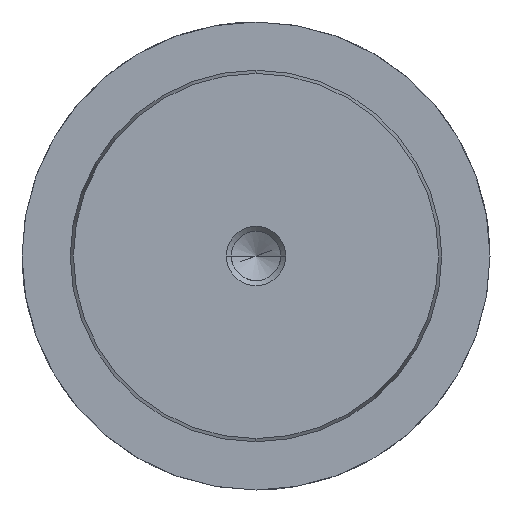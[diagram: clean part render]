
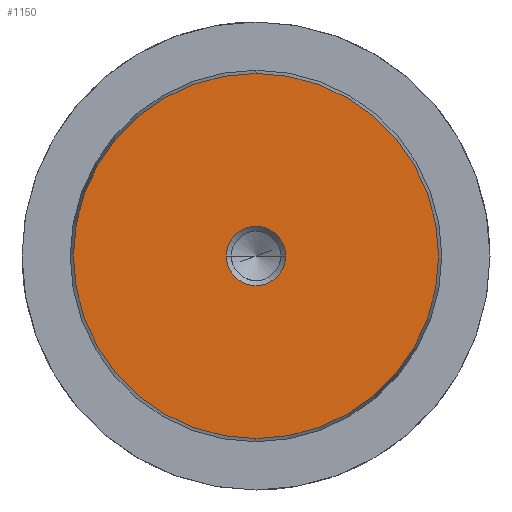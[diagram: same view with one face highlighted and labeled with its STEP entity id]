
A CAD part, left-side view. The second image highlights one B-rep face of the part: STEP entity #1150.
In plain terms, the highlighted planar face has unit normal (-1, 0, 0).
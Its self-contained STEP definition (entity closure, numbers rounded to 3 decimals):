
#1064=CARTESIAN_POINT('Vertex',(0.,0.,-24.578)) ;
#1067=CARTESIAN_POINT('Axis2P3D Location',(0.,0.,0.)) ;
#1071=CARTESIAN_POINT('Vertex',(0.,24.578,0.)) ;
#1074=CARTESIAN_POINT('Axis2P3D Location',(0.,0.,0.)) ;
#1078=CARTESIAN_POINT('Vertex',(0.,0.,24.578)) ;
#1100=CARTESIAN_POINT('Axis2P3D Location',(0.,0.,0.)) ;
#1104=CARTESIAN_POINT('Vertex',(0.,-24.578,0.)) ;
#1107=CARTESIAN_POINT('Axis2P3D Location',(0.,0.,0.)) ;
#1121=CARTESIAN_POINT('Axis2P3D Location',(0.,0.,0.)) ;
#1132=CARTESIAN_POINT('Axis2P3D Location',(0.,0.,0.)) ;
#1136=CARTESIAN_POINT('Vertex',(0.,4.,0.)) ;
#1138=CARTESIAN_POINT('Vertex',(0.,-4.,0.)) ;
#1141=CARTESIAN_POINT('Axis2P3D Location',(0.,0.,0.)) ;
#1068=DIRECTION('Axis2P3D Direction',(1.,0.,-0.)) ;
#1075=DIRECTION('Axis2P3D Direction',(1.,0.,-0.)) ;
#1101=DIRECTION('Axis2P3D Direction',(1.,0.,-0.)) ;
#1108=DIRECTION('Axis2P3D Direction',(1.,0.,-0.)) ;
#1122=DIRECTION('Axis2P3D Direction',(1.,0.,-0.)) ;
#1123=DIRECTION('Axis2P3D XDirection',(-0.,0.,-1.)) ;
#1133=DIRECTION('Axis2P3D Direction',(1.,0.,-0.)) ;
#1142=DIRECTION('Axis2P3D Direction',(1.,0.,-0.)) ;
#1069=AXIS2_PLACEMENT_3D('Circle Axis2P3D',#1067,#1068,$) ;
#1076=AXIS2_PLACEMENT_3D('Circle Axis2P3D',#1074,#1075,$) ;
#1102=AXIS2_PLACEMENT_3D('Circle Axis2P3D',#1100,#1101,$) ;
#1109=AXIS2_PLACEMENT_3D('Circle Axis2P3D',#1107,#1108,$) ;
#1124=AXIS2_PLACEMENT_3D('Plane Axis2P3D',#1121,#1122,#1123) ;
#1134=AXIS2_PLACEMENT_3D('Circle Axis2P3D',#1132,#1133,$) ;
#1143=AXIS2_PLACEMENT_3D('Circle Axis2P3D',#1141,#1142,$) ;
#1127=ORIENTED_EDGE('',*,*,#1073,.F.) ;
#1128=ORIENTED_EDGE('',*,*,#1111,.F.) ;
#1129=ORIENTED_EDGE('',*,*,#1106,.F.) ;
#1130=ORIENTED_EDGE('',*,*,#1080,.F.) ;
#1147=ORIENTED_EDGE('',*,*,#1140,.T.) ;
#1148=ORIENTED_EDGE('',*,*,#1145,.T.) ;
#1149=FACE_BOUND('',#1146,.T.) ;
#1150=ADVANCED_FACE('718-50x160',(#1131,#1149),#1125,.F.) ;
#1070=CIRCLE('generated circle',#1069,24.578) ;
#1077=CIRCLE('generated circle',#1076,24.578) ;
#1103=CIRCLE('generated circle',#1102,24.578) ;
#1110=CIRCLE('generated circle',#1109,24.578) ;
#1135=CIRCLE('generated circle',#1134,4.) ;
#1144=CIRCLE('generated circle',#1143,4.) ;
#1073=EDGE_CURVE('',#1065,#1072,#1070,.T.) ;
#1080=EDGE_CURVE('',#1072,#1079,#1077,.T.) ;
#1106=EDGE_CURVE('',#1079,#1105,#1103,.T.) ;
#1111=EDGE_CURVE('',#1105,#1065,#1110,.T.) ;
#1140=EDGE_CURVE('',#1137,#1139,#1135,.T.) ;
#1145=EDGE_CURVE('',#1139,#1137,#1144,.T.) ;
#1126=EDGE_LOOP('',(#1127,#1128,#1129,#1130)) ;
#1146=EDGE_LOOP('',(#1147,#1148)) ;
#1131=FACE_OUTER_BOUND('',#1126,.T.) ;
#1125=PLANE('Plane',#1124) ;
#1065=VERTEX_POINT('',#1064) ;
#1072=VERTEX_POINT('',#1071) ;
#1079=VERTEX_POINT('',#1078) ;
#1105=VERTEX_POINT('',#1104) ;
#1137=VERTEX_POINT('',#1136) ;
#1139=VERTEX_POINT('',#1138) ;
